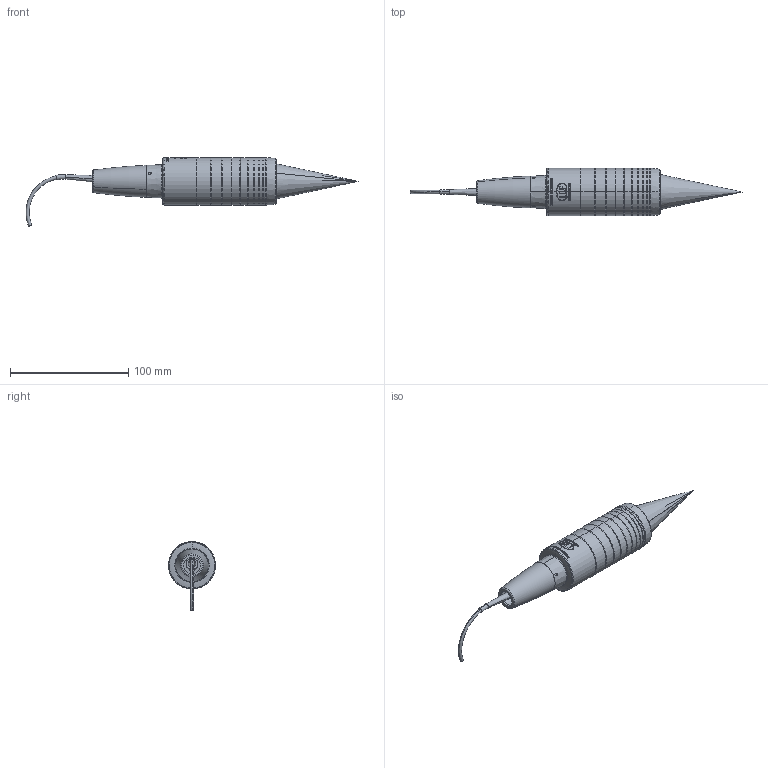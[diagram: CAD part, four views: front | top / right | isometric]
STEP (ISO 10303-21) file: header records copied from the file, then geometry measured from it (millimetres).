
FILE_DESCRIPTION (( 'STEP AP214' ), '1' );
FILE_NAME ('7111198.000-AA IFS2405-6 Sensor-Step.STEP', '2018-09-06T08:26:14', ( '' ), ( '' ), 'SwSTEP 2.0', 'SolidWorks 2017', '' );
FILE_SCHEMA (( 'AUTOMOTIVE_DESIGN' ));
Length unit declared in the file: millimetre
Products named in the file (5): 7111198.000-AA  IFS2405-6 Sensor vereinfacht_2; 7111198.000-AA  IFS2405-6 Sensor-Step; 7111198.000-AA  IFS2405-6 Sensor vereinfacht_1_000; 7111198.000-AA  IFS2405-6 Sensor vereinfacht_2_000; 7111198.000-AA  IFS2405-6 Sensor vereinfacht_1
Assembly tree (2 placements, depth 2):
  7111198.000-AA  IFS2405-6 Sensor vereinfacht_2
  7111198.000-AA  IFS2405-6 Sensor-Step
    7111198.000-AA  IFS2405-6 Sensor vereinfacht_2_000
    7111198.000-AA  IFS2405-6 Sensor vereinfacht_1_000
  7111198.000-AA  IFS2405-6 Sensor vereinfacht_1
Bounding box: 280.52 x 40 x 58.01 mm (x, y, z)
Volume: 143955.6 mm3; surface area: 28980.1 mm2
Topology: 2 solids, 3 shells, 201 faces, 780 edges, 638 vertices
Faces by surface type: cylinder 110, torus 62, plane 14, cone 13, bspline 2
Entity records: 13766 total; most frequent: CARTESIAN_POINT 7213, ORIENTED_EDGE 1552, DIRECTION 1131, EDGE_CURVE 776, VERTEX_POINT 638, AXIS2_PLACEMENT_3D 487, B_SPLINE_CURVE_WITH_KNOTS 331, CIRCLE 282
